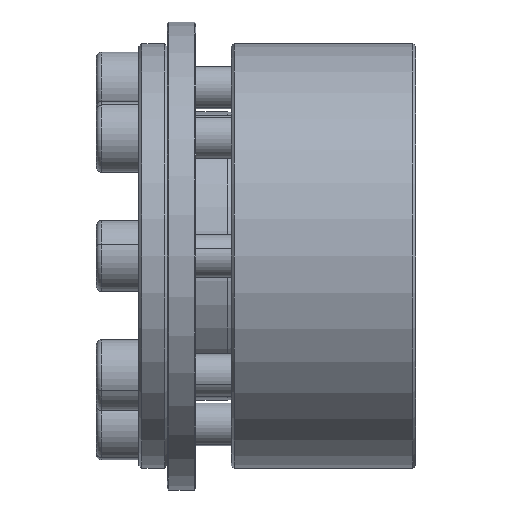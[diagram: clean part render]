
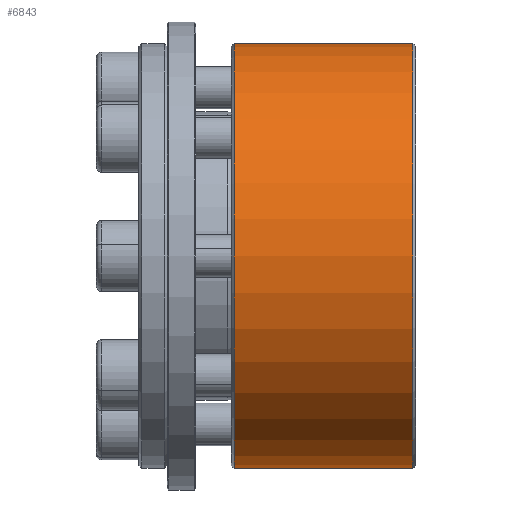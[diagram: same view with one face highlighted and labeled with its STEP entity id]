
A CAD part, front view. The second image highlights one B-rep face of the part: STEP entity #6843.
In plain terms, the highlighted cylindrical face has radius 29.96 mm (diameter 59.92 mm), a partial arc.
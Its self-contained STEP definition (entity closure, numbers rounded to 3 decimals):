
#100 = DIRECTION ( 'NONE',  ( 0., 0., 1. ) ) ;
#251 = ORIENTED_EDGE ( 'NONE', *, *, #682, .T. ) ;
#682 = EDGE_CURVE ( 'NONE', #7447, #5312, #7094, .T. ) ;
#1389 = VECTOR ( 'NONE', #1735, 1000. ) ;
#1585 = DIRECTION ( 'NONE',  ( -1., 0., 0. ) ) ;
#1597 = DIRECTION ( 'NONE',  ( 0., 0., 1. ) ) ;
#1735 = DIRECTION ( 'NONE',  ( -1., 0., 0. ) ) ;
#2358 = DIRECTION ( 'NONE',  ( 0., 0., -1. ) ) ;
#2620 = ORIENTED_EDGE ( 'NONE', *, *, #5812, .F. ) ;
#3093 = DIRECTION ( 'NONE',  ( -1., 0., 0. ) ) ;
#3167 = CARTESIAN_POINT ( 'NONE',  ( -67.166, 26.04, 29.96 ) ) ;
#3558 = EDGE_CURVE ( 'NONE', #5312, #8588, #7165, .T. ) ;
#3595 = CARTESIAN_POINT ( 'NONE',  ( -92.766, 26.04, 29.96 ) ) ;
#3962 = AXIS2_PLACEMENT_3D ( 'NONE', #8632, #3093, #1597 ) ;
#4993 = CARTESIAN_POINT ( 'NONE',  ( -92.366, 26.04, 29.96 ) ) ;
#5197 = AXIS2_PLACEMENT_3D ( 'NONE', #8865, #8723, #2358 ) ;
#5312 = VERTEX_POINT ( 'NONE', #4993 ) ;
#5458 = ORIENTED_EDGE ( 'NONE', *, *, #6830, .T. ) ;
#5742 = EDGE_LOOP ( 'NONE', ( #2620, #5458, #251, #6093 ) ) ;
#5812 = EDGE_CURVE ( 'NONE', #7810, #8588, #8172, .T. ) ;
#5813 = CYLINDRICAL_SURFACE ( 'NONE', #3962, 29.96 ) ;
#5834 = CARTESIAN_POINT ( 'NONE',  ( -67.166, 26.04, -29.96 ) ) ;
#6041 = CARTESIAN_POINT ( 'NONE',  ( -92.766, 26.04, -29.96 ) ) ;
#6093 = ORIENTED_EDGE ( 'NONE', *, *, #3558, .T. ) ;
#6268 = DIRECTION ( 'NONE',  ( -1., 0., 0. ) ) ;
#6830 = EDGE_CURVE ( 'NONE', #7810, #7447, #6941, .T. ) ;
#6843 = ADVANCED_FACE ( 'NONE', ( #7988 ), #5813, .T. ) ;
#6941 = CIRCLE ( 'NONE', #7827, 29.96 ) ;
#6976 = CARTESIAN_POINT ( 'NONE',  ( -67.166, 26.04, 0. ) ) ;
#7094 = LINE ( 'NONE', #3595, #8251 ) ;
#7165 = CIRCLE ( 'NONE', #5197, 29.96 ) ;
#7245 = CARTESIAN_POINT ( 'NONE',  ( -92.366, 26.04, -29.96 ) ) ;
#7447 = VERTEX_POINT ( 'NONE', #3167 ) ;
#7810 = VERTEX_POINT ( 'NONE', #5834 ) ;
#7827 = AXIS2_PLACEMENT_3D ( 'NONE', #6976, #6268, #100 ) ;
#7988 = FACE_OUTER_BOUND ( 'NONE', #5742, .T. ) ;
#8172 = LINE ( 'NONE', #6041, #1389 ) ;
#8251 = VECTOR ( 'NONE', #1585, 1000. ) ;
#8588 = VERTEX_POINT ( 'NONE', #7245 ) ;
#8632 = CARTESIAN_POINT ( 'NONE',  ( -92.766, 26.04, 0. ) ) ;
#8723 = DIRECTION ( 'NONE',  ( 1., 0., 0. ) ) ;
#8865 = CARTESIAN_POINT ( 'NONE',  ( -92.366, 26.04, 0. ) ) ;
